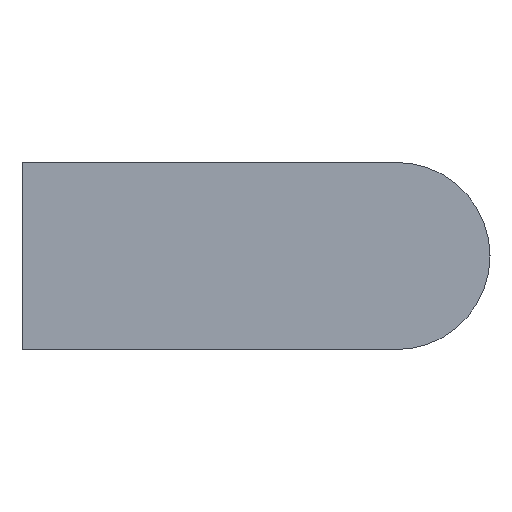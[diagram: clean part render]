
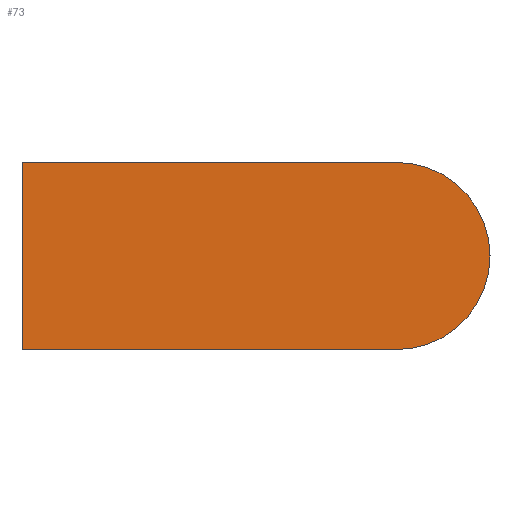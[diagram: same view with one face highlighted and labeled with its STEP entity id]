
A CAD part, left-side view. The second image highlights one B-rep face of the part: STEP entity #73.
In plain terms, the highlighted planar face has unit normal (-1, 0, 0).
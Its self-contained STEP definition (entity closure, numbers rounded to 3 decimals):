
#73 = ADVANCED_FACE( '', ( #152 ), #153, .F. );
#152 = FACE_OUTER_BOUND( '', #229, .T. );
#153 = PLANE( '', #230 );
#229 = EDGE_LOOP( '', ( #360, #361, #362, #363 ) );
#230 = AXIS2_PLACEMENT_3D( '', #364, #365, #366 );
#360 = ORIENTED_EDGE( '', *, *, #457, .F. );
#361 = ORIENTED_EDGE( '', *, *, #426, .F. );
#362 = ORIENTED_EDGE( '', *, *, #450, .F. );
#363 = ORIENTED_EDGE( '', *, *, #458, .F. );
#364 = CARTESIAN_POINT( '', ( -6., -28., 0. ) );
#365 = DIRECTION( '', ( 1., 0., 0. ) );
#366 = DIRECTION( '', ( 0., 0., -1. ) );
#426 = EDGE_CURVE( '', #495, #496, #497, .T. );
#450 = EDGE_CURVE( '', #530, #495, #531, .T. );
#457 = EDGE_CURVE( '', #496, #539, #540, .T. );
#458 = EDGE_CURVE( '', #539, #530, #541, .T. );
#495 = VERTEX_POINT( '', #588 );
#496 = VERTEX_POINT( '', #589 );
#497 = LINE( '', #590, #591 );
#530 = VERTEX_POINT( '', #631 );
#531 = LINE( '', #632, #633 );
#539 = VERTEX_POINT( '', #644 );
#540 = LINE( '', #645, #646 );
#541 = CIRCLE( '', #647, 7. );
#588 = CARTESIAN_POINT( '', ( -6., 0., -7. ) );
#589 = CARTESIAN_POINT( '', ( -6., 0., 7. ) );
#590 = CARTESIAN_POINT( '', ( -6., 0., -7. ) );
#591 = VECTOR( '', #681, 1000. );
#631 = CARTESIAN_POINT( '', ( -6., -28., -7. ) );
#632 = CARTESIAN_POINT( '', ( -6., -28., -7. ) );
#633 = VECTOR( '', #713, 1000. );
#644 = CARTESIAN_POINT( '', ( -6., -28., 7. ) );
#645 = CARTESIAN_POINT( '', ( -6., 0., 7. ) );
#646 = VECTOR( '', #717, 1000. );
#647 = AXIS2_PLACEMENT_3D( '', #718, #719, #720 );
#681 = DIRECTION( '', ( 0., 0., 1. ) );
#713 = DIRECTION( '', ( 0., 1., 0. ) );
#717 = DIRECTION( '', ( 0., -1., 0. ) );
#718 = CARTESIAN_POINT( '', ( -6., -28., 0. ) );
#719 = DIRECTION( '', ( 1., 0., 0. ) );
#720 = DIRECTION( '', ( 0., 0., -1. ) );
